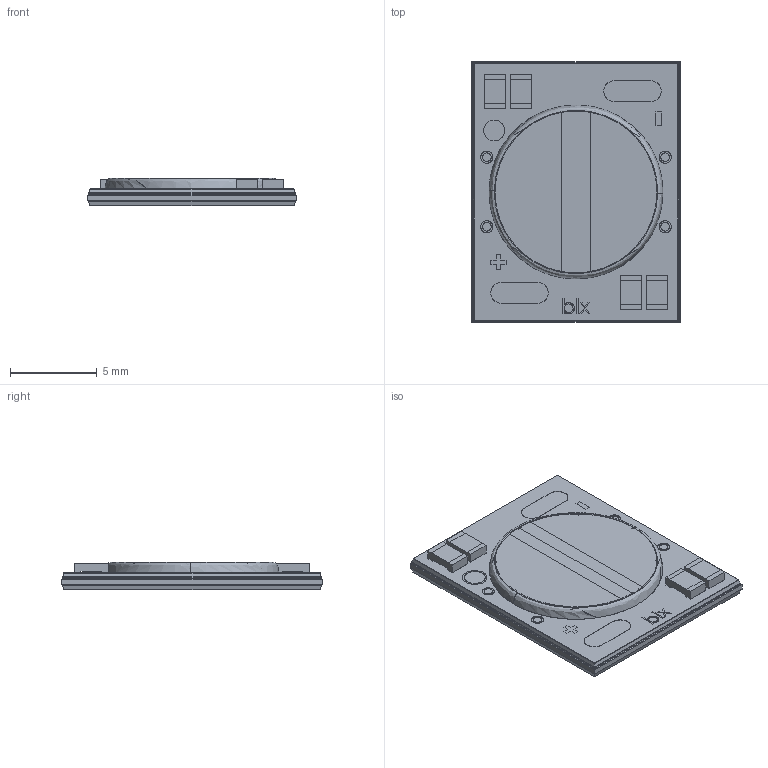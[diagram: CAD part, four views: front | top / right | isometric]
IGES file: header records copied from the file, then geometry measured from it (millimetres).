
Start section: SolidWorks IGES file using analytic representation for surfaces
Global section: file name: C:\Users\jiaqichen\Desktop\Dim to Warm\9mm\12W\Rev2\Assembly\15-000612 Single Unit.IGS; native system: SolidWorks 2017; preprocessor: SolidWorks 2017; author: jiaqichen; date: 170706.162654; units: millimetre
Bounding box: 12 x 15 x 1.56 mm (x, y, z)
Surface area: 1394.4 mm2 (no closed solid volume)
Topology: 0 solids, 0 shells, 549 faces, 3671 edges, 3671 vertices
Faces by surface type: bspline 416, revolution 133
